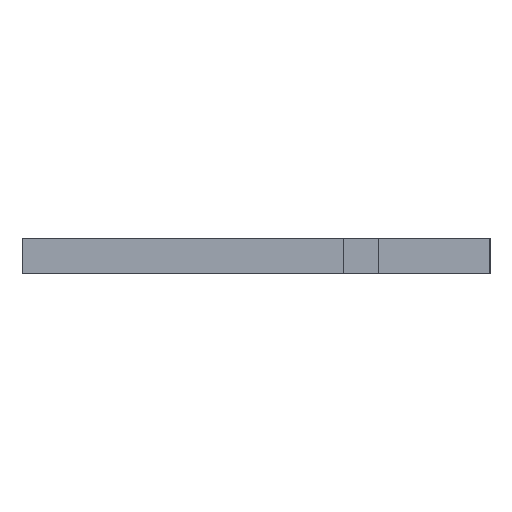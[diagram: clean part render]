
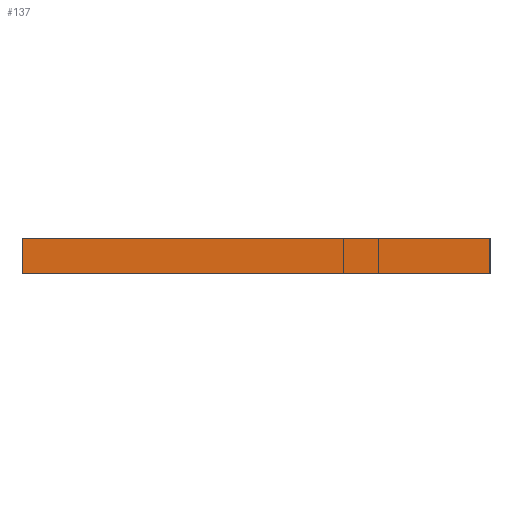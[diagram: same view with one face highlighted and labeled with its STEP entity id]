
A CAD part, left-side view. The second image highlights one B-rep face of the part: STEP entity #137.
In plain terms, the highlighted planar face has unit normal (-1, 0, 0).
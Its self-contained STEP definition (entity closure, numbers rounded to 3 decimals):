
#21 = EDGE_CURVE('',#22,#24,#26,.T.);
#22 = VERTEX_POINT('',#23);
#23 = CARTESIAN_POINT('',(-100.,-80.,0.));
#24 = VERTEX_POINT('',#25);
#25 = CARTESIAN_POINT('',(-100.,-80.,12.));
#26 = SURFACE_CURVE('',#27,(#31,#43),.PCURVE_S1.);
#27 = LINE('',#28,#29);
#28 = CARTESIAN_POINT('',(-100.,-80.,0.));
#29 = VECTOR('',#30,1.);
#30 = DIRECTION('',(0.,0.,1.));
#31 = PCURVE('',#32,#37);
#32 = PLANE('',#33);
#33 = AXIS2_PLACEMENT_3D('',#34,#35,#36);
#34 = CARTESIAN_POINT('',(-100.,-80.,0.));
#35 = DIRECTION('',(0.,1.,0.));
#36 = DIRECTION('',(1.,0.,0.));
#37 = DEFINITIONAL_REPRESENTATION('',(#38),#42);
#38 = LINE('',#39,#40);
#39 = CARTESIAN_POINT('',(0.,0.));
#40 = VECTOR('',#41,1.);
#41 = DIRECTION('',(0.,-1.));
#42 = ( GEOMETRIC_REPRESENTATION_CONTEXT(2) 
PARAMETRIC_REPRESENTATION_CONTEXT() REPRESENTATION_CONTEXT('2D SPACE',''
  ) );
#43 = PCURVE('',#44,#49);
#44 = PLANE('',#45);
#45 = AXIS2_PLACEMENT_3D('',#46,#47,#48);
#46 = CARTESIAN_POINT('',(-100.,80.,0.));
#47 = DIRECTION('',(1.,0.,-0.));
#48 = DIRECTION('',(0.,-1.,0.));
#49 = DEFINITIONAL_REPRESENTATION('',(#50),#54);
#50 = LINE('',#51,#52);
#51 = CARTESIAN_POINT('',(160.,0.));
#52 = VECTOR('',#53,1.);
#53 = DIRECTION('',(0.,-1.));
#54 = ( GEOMETRIC_REPRESENTATION_CONTEXT(2) 
PARAMETRIC_REPRESENTATION_CONTEXT() REPRESENTATION_CONTEXT('2D SPACE',''
  ) );
#72 = PLANE('',#73);
#73 = AXIS2_PLACEMENT_3D('',#74,#75,#76);
#74 = CARTESIAN_POINT('',(0.,0.,12.));
#75 = DIRECTION('',(0.,0.,1.));
#76 = DIRECTION('',(1.,0.,-0.));
#126 = PLANE('',#127);
#127 = AXIS2_PLACEMENT_3D('',#128,#129,#130);
#128 = CARTESIAN_POINT('',(0.,0.,0.));
#129 = DIRECTION('',(0.,0.,1.));
#130 = DIRECTION('',(1.,0.,-0.));
#137 = ADVANCED_FACE('',(#138),#44,.F.);
#138 = FACE_BOUND('',#139,.F.);
#139 = EDGE_LOOP('',(#140,#170,#191,#192));
#140 = ORIENTED_EDGE('',*,*,#141,.T.);
#141 = EDGE_CURVE('',#142,#144,#146,.T.);
#142 = VERTEX_POINT('',#143);
#143 = CARTESIAN_POINT('',(-100.,80.,0.));
#144 = VERTEX_POINT('',#145);
#145 = CARTESIAN_POINT('',(-100.,80.,12.));
#146 = SURFACE_CURVE('',#147,(#151,#158),.PCURVE_S1.);
#147 = LINE('',#148,#149);
#148 = CARTESIAN_POINT('',(-100.,80.,0.));
#149 = VECTOR('',#150,1.);
#150 = DIRECTION('',(0.,0.,1.));
#151 = PCURVE('',#44,#152);
#152 = DEFINITIONAL_REPRESENTATION('',(#153),#157);
#153 = LINE('',#154,#155);
#154 = CARTESIAN_POINT('',(0.,0.));
#155 = VECTOR('',#156,1.);
#156 = DIRECTION('',(0.,-1.));
#157 = ( GEOMETRIC_REPRESENTATION_CONTEXT(2) 
PARAMETRIC_REPRESENTATION_CONTEXT() REPRESENTATION_CONTEXT('2D SPACE',''
  ) );
#158 = PCURVE('',#159,#164);
#159 = PLANE('',#160);
#160 = AXIS2_PLACEMENT_3D('',#161,#162,#163);
#161 = CARTESIAN_POINT('',(100.,80.,0.));
#162 = DIRECTION('',(0.,-1.,0.));
#163 = DIRECTION('',(-1.,0.,0.));
#164 = DEFINITIONAL_REPRESENTATION('',(#165),#169);
#165 = LINE('',#166,#167);
#166 = CARTESIAN_POINT('',(200.,0.));
#167 = VECTOR('',#168,1.);
#168 = DIRECTION('',(0.,-1.));
#169 = ( GEOMETRIC_REPRESENTATION_CONTEXT(2) 
PARAMETRIC_REPRESENTATION_CONTEXT() REPRESENTATION_CONTEXT('2D SPACE',''
  ) );
#170 = ORIENTED_EDGE('',*,*,#171,.T.);
#171 = EDGE_CURVE('',#144,#24,#172,.T.);
#172 = SURFACE_CURVE('',#173,(#177,#184),.PCURVE_S1.);
#173 = LINE('',#174,#175);
#174 = CARTESIAN_POINT('',(-100.,80.,12.));
#175 = VECTOR('',#176,1.);
#176 = DIRECTION('',(0.,-1.,0.));
#177 = PCURVE('',#44,#178);
#178 = DEFINITIONAL_REPRESENTATION('',(#179),#183);
#179 = LINE('',#180,#181);
#180 = CARTESIAN_POINT('',(0.,-12.));
#181 = VECTOR('',#182,1.);
#182 = DIRECTION('',(1.,0.));
#183 = ( GEOMETRIC_REPRESENTATION_CONTEXT(2) 
PARAMETRIC_REPRESENTATION_CONTEXT() REPRESENTATION_CONTEXT('2D SPACE',''
  ) );
#184 = PCURVE('',#72,#185);
#185 = DEFINITIONAL_REPRESENTATION('',(#186),#190);
#186 = LINE('',#187,#188);
#187 = CARTESIAN_POINT('',(-100.,80.));
#188 = VECTOR('',#189,1.);
#189 = DIRECTION('',(0.,-1.));
#190 = ( GEOMETRIC_REPRESENTATION_CONTEXT(2) 
PARAMETRIC_REPRESENTATION_CONTEXT() REPRESENTATION_CONTEXT('2D SPACE',''
  ) );
#191 = ORIENTED_EDGE('',*,*,#21,.F.);
#192 = ORIENTED_EDGE('',*,*,#193,.F.);
#193 = EDGE_CURVE('',#142,#22,#194,.T.);
#194 = SURFACE_CURVE('',#195,(#199,#206),.PCURVE_S1.);
#195 = LINE('',#196,#197);
#196 = CARTESIAN_POINT('',(-100.,80.,0.));
#197 = VECTOR('',#198,1.);
#198 = DIRECTION('',(0.,-1.,0.));
#199 = PCURVE('',#44,#200);
#200 = DEFINITIONAL_REPRESENTATION('',(#201),#205);
#201 = LINE('',#202,#203);
#202 = CARTESIAN_POINT('',(0.,0.));
#203 = VECTOR('',#204,1.);
#204 = DIRECTION('',(1.,0.));
#205 = ( GEOMETRIC_REPRESENTATION_CONTEXT(2) 
PARAMETRIC_REPRESENTATION_CONTEXT() REPRESENTATION_CONTEXT('2D SPACE',''
  ) );
#206 = PCURVE('',#126,#207);
#207 = DEFINITIONAL_REPRESENTATION('',(#208),#212);
#208 = LINE('',#209,#210);
#209 = CARTESIAN_POINT('',(-100.,80.));
#210 = VECTOR('',#211,1.);
#211 = DIRECTION('',(0.,-1.));
#212 = ( GEOMETRIC_REPRESENTATION_CONTEXT(2) 
PARAMETRIC_REPRESENTATION_CONTEXT() REPRESENTATION_CONTEXT('2D SPACE',''
  ) );
